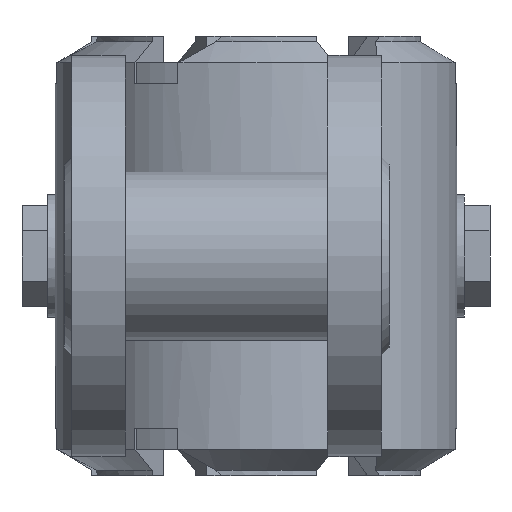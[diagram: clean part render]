
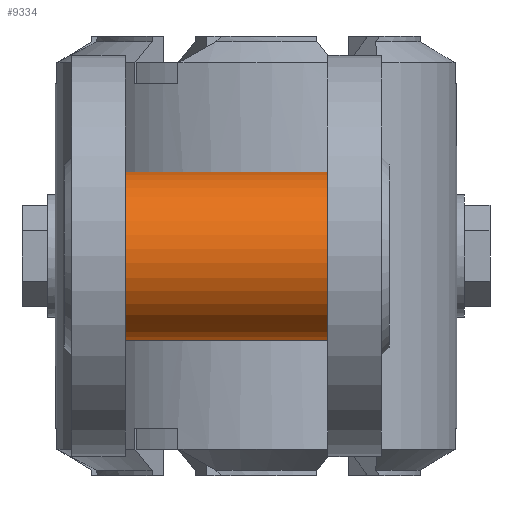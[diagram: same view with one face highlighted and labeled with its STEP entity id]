
A CAD part, front view. The second image highlights one B-rep face of the part: STEP entity #9334.
In plain terms, the highlighted cylindrical face has radius 22 mm (diameter 44 mm), a partial arc.
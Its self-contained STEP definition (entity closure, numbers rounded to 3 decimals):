
#1339=FACE_OUTER_BOUND('',#10977,.T.);
#2603=B_SPLINE_CURVE_WITH_KNOTS('',3,(#31890,#31891,#31892,#31893,#31894,
#31895),.UNSPECIFIED.,.F.,.F.,(4,2,4),(0.,0.5,1.),.UNSPECIFIED.);
#2604=B_SPLINE_CURVE_WITH_KNOTS('',3,(#31903,#31904,#31905,#31906),
 .UNSPECIFIED.,.F.,.F.,(4,4),(0.,1.),.UNSPECIFIED.);
#2605=B_SPLINE_CURVE_WITH_KNOTS('',3,(#31908,#31909,#31910,#31911),
 .UNSPECIFIED.,.F.,.F.,(4,4),(0.,1.),.UNSPECIFIED.);
#2606=B_SPLINE_CURVE_WITH_KNOTS('',3,(#31913,#31914,#31915,#31916),
 .UNSPECIFIED.,.F.,.F.,(4,4),(0.,1.),.UNSPECIFIED.);
#2607=B_SPLINE_CURVE_WITH_KNOTS('',3,(#31918,#31919,#31920,#31921),
 .UNSPECIFIED.,.F.,.F.,(4,4),(0.,1.),.UNSPECIFIED.);
#2608=B_SPLINE_CURVE_WITH_KNOTS('',3,(#31923,#31924,#31925,#31926),
 .UNSPECIFIED.,.F.,.F.,(4,4),(0.,1.),.UNSPECIFIED.);
#2609=B_SPLINE_CURVE_WITH_KNOTS('',3,(#31928,#31929,#31930,#31931),
 .UNSPECIFIED.,.F.,.F.,(4,4),(0.,1.),.UNSPECIFIED.);
#2610=B_SPLINE_CURVE_WITH_KNOTS('',3,(#31933,#31934,#31935,#31936),
 .UNSPECIFIED.,.F.,.F.,(4,4),(0.,1.),.UNSPECIFIED.);
#4174=LINE('',#31883,#6499);
#4175=LINE('',#31888,#6500);
#4176=LINE('',#31897,#6501);
#4177=LINE('',#31901,#6502);
#6499=VECTOR('',#26977,1.);
#6500=VECTOR('',#26980,1.);
#6501=VECTOR('',#26981,1.);
#6502=VECTOR('',#26984,1.);
#9334=ADVANCED_FACE('',(#1339),#10667,.T.);
#10667=CYLINDRICAL_SURFACE('',#25918,22.);
#10977=EDGE_LOOP('',(#12467,#12468,#12469,#12470,#12471,#12472,#12473,#12474,
#12475,#12476,#12477,#12478,#12479,#12480));
#12467=ORIENTED_EDGE('',*,*,#22099,.T.);
#12468=ORIENTED_EDGE('',*,*,#22100,.T.);
#12469=ORIENTED_EDGE('',*,*,#22101,.T.);
#12470=ORIENTED_EDGE('',*,*,#22102,.F.);
#12471=ORIENTED_EDGE('',*,*,#22103,.T.);
#12472=ORIENTED_EDGE('',*,*,#22104,.T.);
#12473=ORIENTED_EDGE('',*,*,#22105,.T.);
#12474=ORIENTED_EDGE('',*,*,#22106,.F.);
#12475=ORIENTED_EDGE('',*,*,#22107,.F.);
#12476=ORIENTED_EDGE('',*,*,#22108,.F.);
#12477=ORIENTED_EDGE('',*,*,#22109,.F.);
#12478=ORIENTED_EDGE('',*,*,#22110,.F.);
#12479=ORIENTED_EDGE('',*,*,#22111,.F.);
#12480=ORIENTED_EDGE('',*,*,#22112,.F.);
#19681=VERTEX_POINT('',#31884);
#19682=VERTEX_POINT('',#31885);
#19683=VERTEX_POINT('',#31887);
#19684=VERTEX_POINT('',#31889);
#19685=VERTEX_POINT('',#31896);
#19686=VERTEX_POINT('',#31898);
#19687=VERTEX_POINT('',#31900);
#19688=VERTEX_POINT('',#31902);
#19689=VERTEX_POINT('',#31907);
#19690=VERTEX_POINT('',#31912);
#19691=VERTEX_POINT('',#31917);
#19692=VERTEX_POINT('',#31922);
#19693=VERTEX_POINT('',#31927);
#19694=VERTEX_POINT('',#31932);
#22099=EDGE_CURVE('',#19681,#19682,#4174,.T.);
#22100=EDGE_CURVE('',#19682,#19683,#25706,.T.);
#22101=EDGE_CURVE('',#19683,#19684,#4175,.T.);
#22102=EDGE_CURVE('',#19685,#19684,#2603,.T.);
#22103=EDGE_CURVE('',#19685,#19686,#4176,.T.);
#22104=EDGE_CURVE('',#19686,#19687,#25707,.T.);
#22105=EDGE_CURVE('',#19687,#19688,#4177,.T.);
#22106=EDGE_CURVE('',#19689,#19688,#2604,.T.);
#22107=EDGE_CURVE('',#19690,#19689,#2605,.T.);
#22108=EDGE_CURVE('',#19691,#19690,#2606,.T.);
#22109=EDGE_CURVE('',#19692,#19691,#2607,.T.);
#22110=EDGE_CURVE('',#19693,#19692,#2608,.T.);
#22111=EDGE_CURVE('',#19694,#19693,#2609,.T.);
#22112=EDGE_CURVE('',#19681,#19694,#2610,.T.);
#25706=CIRCLE('',#25916,22.);
#25707=CIRCLE('',#25917,22.);
#25916=AXIS2_PLACEMENT_3D('',#31886,#26978,#26979);
#25917=AXIS2_PLACEMENT_3D('',#31899,#26982,#26983);
#25918=AXIS2_PLACEMENT_3D('',#31937,#26985,#26986);
#26977=DIRECTION('',(-1.,0.,0.));
#26978=DIRECTION('',(1.,0.,0.));
#26979=DIRECTION('',(0.,0.,1.));
#26980=DIRECTION('',(1.,0.,0.));
#26981=DIRECTION('',(1.,0.,0.));
#26982=DIRECTION('',(-1.,0.,0.));
#26983=DIRECTION('',(0.,0.,-1.));
#26984=DIRECTION('',(-1.,0.,0.));
#26985=DIRECTION('',(-1.,0.,0.));
#26986=DIRECTION('',(0.,0.,-1.));
#31883=CARTESIAN_POINT('',(136.8,6.,6.542));
#31884=CARTESIAN_POINT('',(-4.605,6.,6.542));
#31885=CARTESIAN_POINT('',(-34.2,6.,6.542));
#31886=CARTESIAN_POINT('',(-34.2,-15.,-0.016));
#31887=CARTESIAN_POINT('',(-34.2,6.,-6.573));
#31888=CARTESIAN_POINT('',(136.8,6.,-6.573));
#31889=CARTESIAN_POINT('',(-4.56,6.,-6.573));
#31890=CARTESIAN_POINT('',(4.56,6.,-6.573));
#31891=CARTESIAN_POINT('',(3.149,5.778,-7.283));
#31892=CARTESIAN_POINT('',(1.575,5.638,-7.637));
#31893=CARTESIAN_POINT('',(-1.571,5.637,-7.638));
#31894=CARTESIAN_POINT('',(-3.149,5.778,-7.283));
#31895=CARTESIAN_POINT('',(-4.56,6.,-6.573));
#31896=CARTESIAN_POINT('',(4.56,6.,-6.573));
#31897=CARTESIAN_POINT('',(136.8,6.,-6.573));
#31898=CARTESIAN_POINT('',(18.8,6.,-6.573));
#31899=CARTESIAN_POINT('',(18.8,-15.,-0.016));
#31900=CARTESIAN_POINT('',(18.8,6.,6.542));
#31901=CARTESIAN_POINT('',(136.8,6.,6.542));
#31902=CARTESIAN_POINT('',(4.605,6.,6.542));
#31903=CARTESIAN_POINT('',(4.542,5.99,6.574));
#31904=CARTESIAN_POINT('',(4.563,5.993,6.563));
#31905=CARTESIAN_POINT('',(4.584,5.997,6.552));
#31906=CARTESIAN_POINT('',(4.605,6.,6.542));
#31907=CARTESIAN_POINT('',(4.542,5.99,6.574));
#31908=CARTESIAN_POINT('',(4.531,5.984,6.593));
#31909=CARTESIAN_POINT('',(4.535,5.986,6.587));
#31910=CARTESIAN_POINT('',(4.538,5.988,6.58));
#31911=CARTESIAN_POINT('',(4.542,5.99,6.574));
#31912=CARTESIAN_POINT('',(4.531,5.984,6.593));
#31913=CARTESIAN_POINT('',(2.712,5.667,7.526));
#31914=CARTESIAN_POINT('',(3.362,5.752,7.292));
#31915=CARTESIAN_POINT('',(3.967,5.862,6.981));
#31916=CARTESIAN_POINT('',(4.531,5.984,6.593));
#31917=CARTESIAN_POINT('',(2.712,5.667,7.526));
#31918=CARTESIAN_POINT('',(-1.881,5.574,7.776));
#31919=CARTESIAN_POINT('',(-0.345,5.502,7.965));
#31920=CARTESIAN_POINT('',(1.211,5.537,7.883));
#31921=CARTESIAN_POINT('',(2.712,5.667,7.526));
#31922=CARTESIAN_POINT('',(-1.881,5.574,7.776));
#31923=CARTESIAN_POINT('',(-3.658,5.813,7.115));
#31924=CARTESIAN_POINT('',(-3.099,5.714,7.402));
#31925=CARTESIAN_POINT('',(-2.498,5.631,7.627));
#31926=CARTESIAN_POINT('',(-1.881,5.574,7.776));
#31927=CARTESIAN_POINT('',(-3.658,5.813,7.115));
#31928=CARTESIAN_POINT('',(-3.77,5.879,6.918));
#31929=CARTESIAN_POINT('',(-3.733,5.857,6.984));
#31930=CARTESIAN_POINT('',(-3.696,5.835,7.049));
#31931=CARTESIAN_POINT('',(-3.658,5.813,7.115));
#31932=CARTESIAN_POINT('',(-3.77,5.879,6.918));
#31933=CARTESIAN_POINT('',(-4.605,6.,6.542));
#31934=CARTESIAN_POINT('',(-4.331,5.956,6.681));
#31935=CARTESIAN_POINT('',(-4.053,5.916,6.806));
#31936=CARTESIAN_POINT('',(-3.77,5.879,6.918));
#31937=CARTESIAN_POINT('',(136.8,-15.,-0.016));
